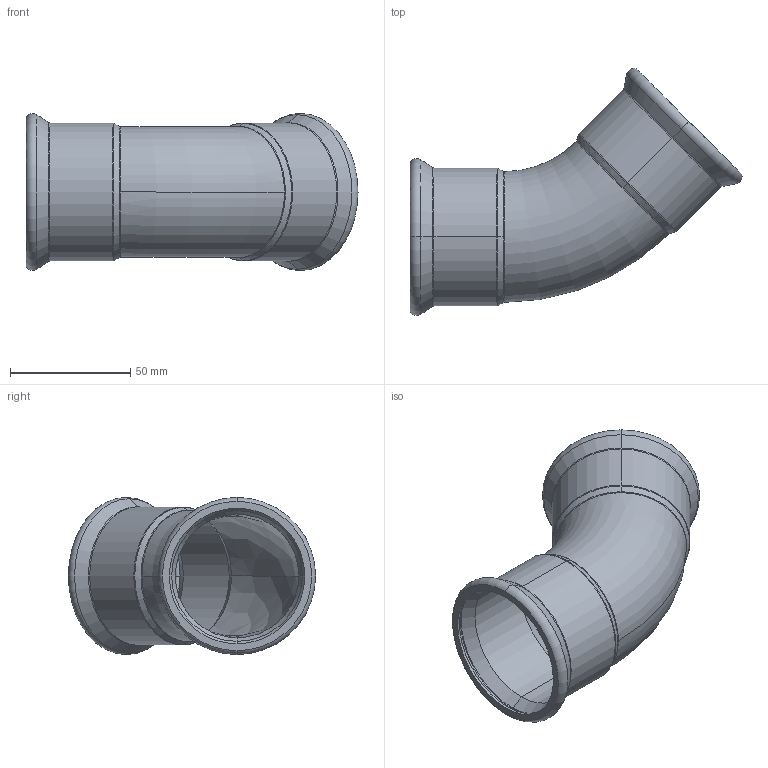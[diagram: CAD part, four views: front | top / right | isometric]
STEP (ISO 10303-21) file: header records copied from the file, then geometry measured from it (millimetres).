
FILE_DESCRIPTION (( 'STEP AP214' ), '1' );
FILE_NAME ('E540045.STEP', '2025-08-17T07:08:11', ( '' ), ( '' ), 'SwSTEP 2.0', 'SolidWorks 2020', '' );
FILE_SCHEMA (( 'AUTOMOTIVE_DESIGN' ));
Length unit declared in the file: millimetre
Products named in the file (1): E540045
Bounding box: 138.16 x 102.86 x 65.38 mm (x, y, z)
Volume: 37492.4 mm3; surface area: 51864.1 mm2
Topology: 3 solids, 3 shells, 64 faces, 148 edges, 88 vertices
Faces by surface type: torus 26, cone 16, cylinder 12, bspline 6, plane 4
Entity records: 4180 total; most frequent: CARTESIAN_POINT 1969, DIRECTION 342, ORIENTED_EDGE 296, AXIS2_PLACEMENT_3D 157, EDGE_CURVE 148, CIRCLE 98, VERTEX_POINT 88, EDGE_LOOP 68
